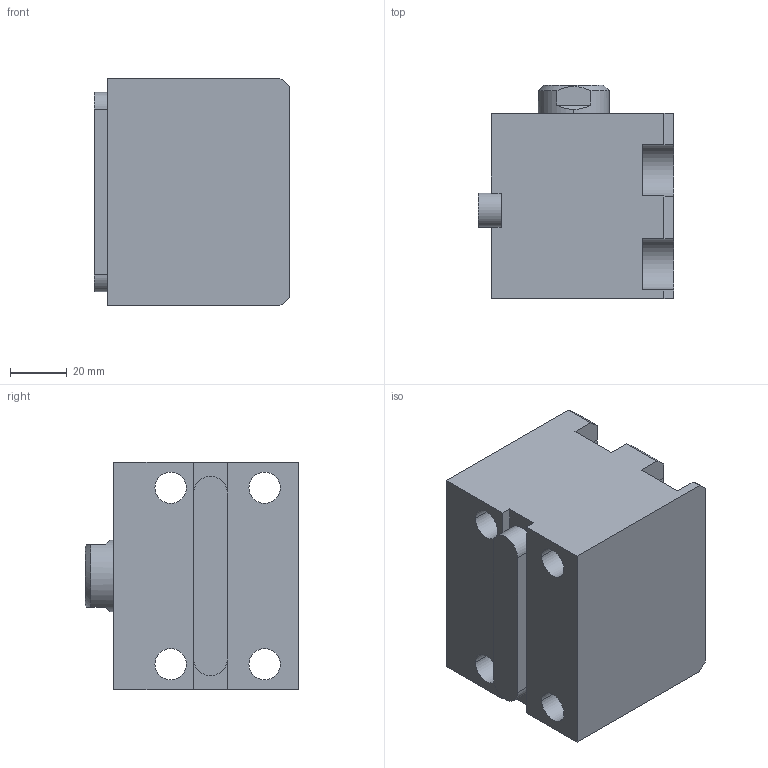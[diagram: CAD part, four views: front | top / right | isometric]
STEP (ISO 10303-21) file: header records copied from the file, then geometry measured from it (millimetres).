
FILE_DESCRIPTION (( 'STEP AP214' ), '1' );
FILE_NAME ('chtb-la40x10n_asm.STEP', '2018-05-31T02:21:38', ( 'Windows' ), ( 'Microsoft' ), 'SwSTEP 2.0', 'SolidWorks 2015', '' );
FILE_SCHEMA (( 'AUTOMOTIVE_DESIGN' ));
Length unit declared in the file: millimetre
Products named in the file (5): CHTB-SD40X10NHSG; CHTB-SD40QG; CHTB-LA40X10NBT; CHTB-LA40PJ; chtb-la40x10n_asm
Assembly tree (4 placements, depth 2):
  chtb-la40x10n_asm
    CHTB-LA40PJ
    CHTB-LA40X10NBT
    CHTB-SD40QG
    CHTB-SD40X10NHSG
Bounding box: 68.5 x 75 x 80 mm (x, y, z)
Volume: 287805.4 mm3; surface area: 69383.5 mm2
Topology: 4 solids, 4 shells, 160 faces, 430 edges, 286 vertices
Faces by surface type: cylinder 73, plane 48, bspline 14, cone 13, torus 12
Entity records: 10258 total; most frequent: CARTESIAN_POINT 6106, ORIENTED_EDGE 848, DIRECTION 787, EDGE_CURVE 424, AXIS2_PLACEMENT_3D 314, VERTEX_POINT 286, EDGE_LOOP 188, CIRCLE 161
